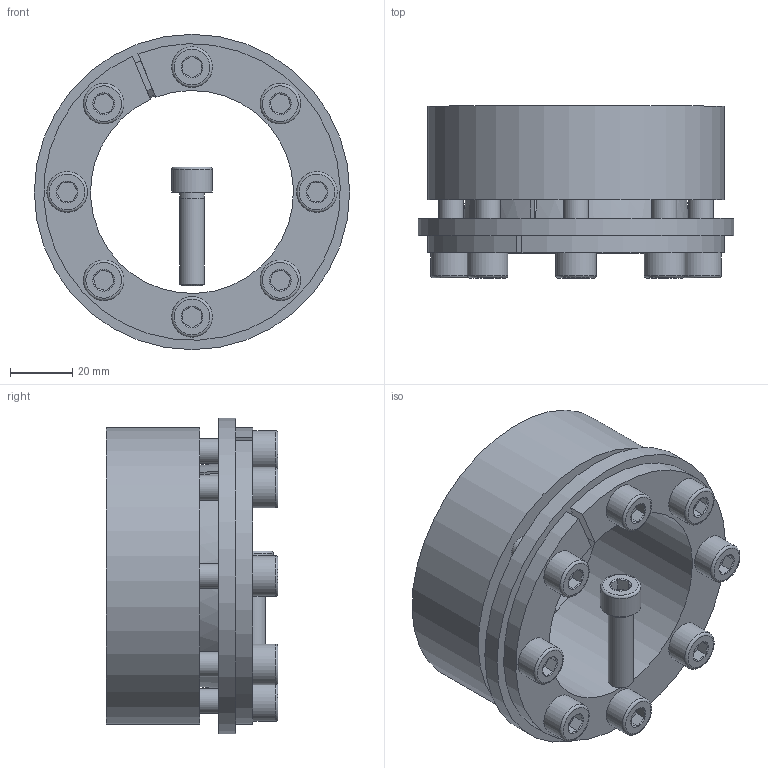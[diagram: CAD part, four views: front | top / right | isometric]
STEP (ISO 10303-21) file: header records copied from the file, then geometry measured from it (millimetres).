
FILE_DESCRIPTION( ( 'Unknown' ), '1' );
FILE_NAME( 'C:/Dokumente und Einstellungen/Sven/Desktop/homepage/cad - homepage/KBS71/KBS 71 - 65 x 95.stp', 'Unknown', ( 'Unknown' ), ( 'Unknown' ), 'XStep 1.0', 'Unknown', ' ' );
FILE_SCHEMA( ( 'automotive_design' ) );
Length unit declared in the file: millimetre
Products named in the file (3): Assem1; KBS 71 - 65 x 95; ISO EN DIN 4762 M8x30
Bounding box: 101 x 55 x 101 mm (x, y, z)
Volume: 312788.4 mm3; surface area: 106195.7 mm2
Topology: 11 solids, 11 shells, 305 faces, 659 edges, 394 vertices
Faces by surface type: plane 140, cylinder 76, cone 71, torus 18
Full cylindrical faces by diameter (mm): 7 x9, 8 x50, 13 x9, 101 x2
Entity records: 2318 total; most frequent: CARTESIAN_POINT 365, DIRECTION 352, ORIENTED_EDGE 272, AXIS2_PLACEMENT_3D 151, EDGE_CURVE 136, EDGE_LOOP 122, VERTEX_POINT 96, FACE_OUTER_BOUND 88
